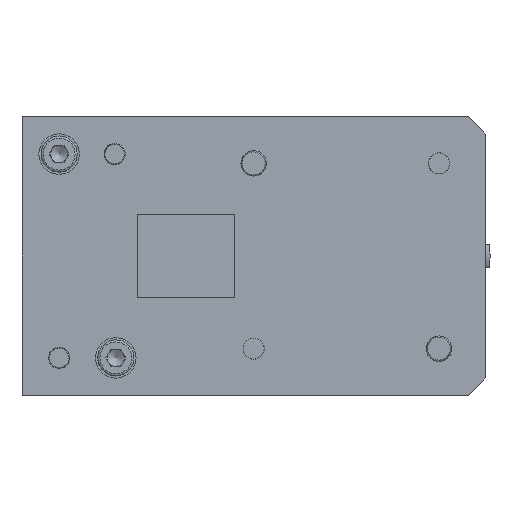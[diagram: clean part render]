
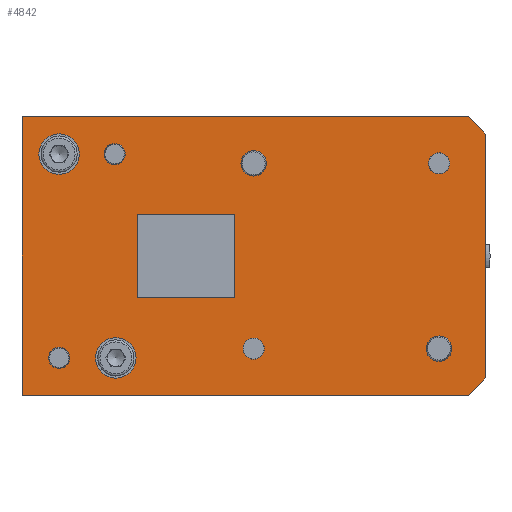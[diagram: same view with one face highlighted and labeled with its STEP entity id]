
A CAD part, front view. The second image highlights one B-rep face of the part: STEP entity #4842.
In plain terms, the highlighted planar face has unit normal (0, -1, 0).
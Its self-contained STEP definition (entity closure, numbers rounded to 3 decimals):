
#331=LINE('',#9128,#660);
#337=LINE('',#9141,#666);
#340=LINE('',#9147,#669);
#343=LINE('',#9154,#672);
#345=LINE('',#9174,#674);
#346=LINE('',#9177,#675);
#347=LINE('',#9179,#676);
#348=LINE('',#9181,#677);
#349=LINE('',#9182,#678);
#350=LINE('',#9183,#679);
#660=VECTOR('',#7779,1000.);
#666=VECTOR('',#7787,1000.);
#669=VECTOR('',#7792,1000.);
#672=VECTOR('',#7797,1000.);
#674=VECTOR('',#7817,1000.);
#675=VECTOR('',#7818,1000.);
#676=VECTOR('',#7819,1000.);
#677=VECTOR('',#7820,1000.);
#678=VECTOR('',#7821,1000.);
#679=VECTOR('',#7822,1000.);
#2060=ORIENTED_EDGE('',*,*,#2660,.T.);
#2061=ORIENTED_EDGE('',*,*,#2661,.F.);
#2062=ORIENTED_EDGE('',*,*,#2662,.F.);
#2063=ORIENTED_EDGE('',*,*,#2663,.T.);
#2064=ORIENTED_EDGE('',*,*,#2664,.T.);
#2065=ORIENTED_EDGE('',*,*,#2665,.T.);
#2066=ORIENTED_EDGE('',*,*,#2666,.T.);
#2067=ORIENTED_EDGE('',*,*,#2667,.T.);
#2068=ORIENTED_EDGE('',*,*,#2668,.T.);
#2069=ORIENTED_EDGE('',*,*,#2669,.T.);
#2070=ORIENTED_EDGE('',*,*,#2670,.T.);
#2071=ORIENTED_EDGE('',*,*,#2671,.T.);
#2072=ORIENTED_EDGE('',*,*,#2658,.F.);
#2073=ORIENTED_EDGE('',*,*,#2672,.T.);
#2074=ORIENTED_EDGE('',*,*,#2646,.F.);
#2075=ORIENTED_EDGE('',*,*,#2652,.F.);
#2076=ORIENTED_EDGE('',*,*,#2655,.F.);
#2077=ORIENTED_EDGE('',*,*,#2673,.T.);
#2646=EDGE_CURVE('',#3091,#3092,#331,.T.);
#2652=EDGE_CURVE('',#3096,#3091,#337,.T.);
#2655=EDGE_CURVE('',#3098,#3096,#340,.T.);
#2658=EDGE_CURVE('',#3101,#3102,#343,.T.);
#2660=EDGE_CURVE('',#3103,#3103,#3334,.T.);
#2661=EDGE_CURVE('',#3104,#3104,#3335,.T.);
#2662=EDGE_CURVE('',#3105,#3105,#3336,.T.);
#2663=EDGE_CURVE('',#3106,#3106,#3337,.T.);
#2664=EDGE_CURVE('',#3107,#3107,#3338,.T.);
#2665=EDGE_CURVE('',#3108,#3108,#3339,.T.);
#2666=EDGE_CURVE('',#3109,#3109,#3340,.T.);
#2667=EDGE_CURVE('',#3110,#3110,#3341,.T.);
#2668=EDGE_CURVE('',#3111,#3112,#345,.T.);
#2669=EDGE_CURVE('',#3112,#3113,#346,.T.);
#2670=EDGE_CURVE('',#3113,#3114,#347,.T.);
#2671=EDGE_CURVE('',#3114,#3111,#348,.T.);
#2672=EDGE_CURVE('',#3101,#3092,#349,.F.);
#2673=EDGE_CURVE('',#3098,#3102,#350,.F.);
#3091=VERTEX_POINT('',#9129);
#3092=VERTEX_POINT('',#9130);
#3096=VERTEX_POINT('',#9140);
#3098=VERTEX_POINT('',#9146);
#3101=VERTEX_POINT('',#9153);
#3102=VERTEX_POINT('',#9155);
#3103=VERTEX_POINT('',#9159);
#3104=VERTEX_POINT('',#9161);
#3105=VERTEX_POINT('',#9163);
#3106=VERTEX_POINT('',#9165);
#3107=VERTEX_POINT('',#9167);
#3108=VERTEX_POINT('',#9169);
#3109=VERTEX_POINT('',#9171);
#3110=VERTEX_POINT('',#9173);
#3111=VERTEX_POINT('',#9175);
#3112=VERTEX_POINT('',#9176);
#3113=VERTEX_POINT('',#9178);
#3114=VERTEX_POINT('',#9180);
#3334=CIRCLE('',#6359,2.5);
#3335=CIRCLE('',#6360,4.75);
#3336=CIRCLE('',#6361,4.75);
#3337=CIRCLE('',#6362,3.);
#3338=CIRCLE('',#6363,2.5);
#3339=CIRCLE('',#6364,2.5);
#3340=CIRCLE('',#6365,3.);
#3341=CIRCLE('',#6366,2.5);
#3813=EDGE_LOOP('',(#2060));
#3814=EDGE_LOOP('',(#2061));
#3815=EDGE_LOOP('',(#2062));
#3816=EDGE_LOOP('',(#2063));
#3817=EDGE_LOOP('',(#2064));
#3818=EDGE_LOOP('',(#2065));
#3819=EDGE_LOOP('',(#2066));
#3820=EDGE_LOOP('',(#2067));
#3821=EDGE_LOOP('',(#2068,#2069,#2070,#2071));
#3822=EDGE_LOOP('',(#2072,#2073,#2074,#2075,#2076,#2077));
#4338=FACE_BOUND('',#3813,.T.);
#4339=FACE_BOUND('',#3814,.T.);
#4340=FACE_BOUND('',#3815,.T.);
#4341=FACE_BOUND('',#3816,.T.);
#4342=FACE_BOUND('',#3817,.T.);
#4343=FACE_BOUND('',#3818,.T.);
#4344=FACE_BOUND('',#3819,.T.);
#4345=FACE_BOUND('',#3820,.T.);
#4346=FACE_BOUND('',#3821,.T.);
#4347=FACE_BOUND('',#3822,.T.);
#4548=PLANE('',#6358);
#4842=ADVANCED_FACE('',(#4338,#4339,#4340,#4341,#4342,#4343,#4344,#4345,
#4346,#4347),#4548,.F.);
#6358=AXIS2_PLACEMENT_3D('',#9157,#7799,#7800);
#6359=AXIS2_PLACEMENT_3D('',#9158,#7801,#7802);
#6360=AXIS2_PLACEMENT_3D('',#9160,#7803,#7804);
#6361=AXIS2_PLACEMENT_3D('',#9162,#7805,#7806);
#6362=AXIS2_PLACEMENT_3D('',#9164,#7807,#7808);
#6363=AXIS2_PLACEMENT_3D('',#9166,#7809,#7810);
#6364=AXIS2_PLACEMENT_3D('',#9168,#7811,#7812);
#6365=AXIS2_PLACEMENT_3D('',#9170,#7813,#7814);
#6366=AXIS2_PLACEMENT_3D('',#9172,#7815,#7816);
#7779=DIRECTION('',(1.,0.,0.));
#7787=DIRECTION('',(0.,0.,1.));
#7792=DIRECTION('',(-1.,0.,0.));
#7797=DIRECTION('',(0.,0.,-1.));
#7799=DIRECTION('',(0.,1.,0.));
#7800=DIRECTION('',(0.,0.,1.));
#7801=DIRECTION('',(0.,1.,0.));
#7802=DIRECTION('',(0.,0.,1.));
#7803=DIRECTION('',(0.,-1.,0.));
#7804=DIRECTION('',(0.,0.,-1.));
#7805=DIRECTION('',(0.,-1.,0.));
#7806=DIRECTION('',(0.,0.,-1.));
#7807=DIRECTION('',(0.,1.,0.));
#7808=DIRECTION('',(0.,0.,1.));
#7809=DIRECTION('',(0.,1.,0.));
#7810=DIRECTION('',(0.,0.,1.));
#7811=DIRECTION('',(0.,1.,0.));
#7812=DIRECTION('',(0.,0.,1.));
#7813=DIRECTION('',(0.,1.,0.));
#7814=DIRECTION('',(0.,0.,1.));
#7815=DIRECTION('',(0.,1.,0.));
#7816=DIRECTION('',(0.,0.,1.));
#7817=DIRECTION('',(0.,0.,1.));
#7818=DIRECTION('',(1.,0.,0.));
#7819=DIRECTION('',(0.,0.,-1.));
#7820=DIRECTION('',(-1.,0.,0.));
#7821=DIRECTION('',(0.707,0.,-0.707));
#7822=DIRECTION('',(-0.707,0.,-0.707));
#9128=CARTESIAN_POINT('',(109.,-13.08,32.7));
#9129=CARTESIAN_POINT('',(0.,-13.08,32.7));
#9130=CARTESIAN_POINT('',(105.,-13.08,32.7));
#9140=CARTESIAN_POINT('',(0.,-13.08,-32.7));
#9141=CARTESIAN_POINT('',(0.,-13.08,-32.7));
#9146=CARTESIAN_POINT('',(105.,-13.08,-32.7));
#9147=CARTESIAN_POINT('',(0.,-13.08,-32.7));
#9153=CARTESIAN_POINT('',(109.,-13.08,28.7));
#9154=CARTESIAN_POINT('',(109.,-13.08,-32.7));
#9155=CARTESIAN_POINT('',(109.,-13.08,-28.7));
#9157=CARTESIAN_POINT('',(0.,-13.08,32.7));
#9158=CARTESIAN_POINT('',(54.5,-13.08,-21.8));
#9159=CARTESIAN_POINT('',(54.5,-13.08,-19.3));
#9160=CARTESIAN_POINT('',(8.72,-13.08,23.98));
#9161=CARTESIAN_POINT('',(8.72,-13.08,19.23));
#9162=CARTESIAN_POINT('',(22.073,-13.08,-23.98));
#9163=CARTESIAN_POINT('',(22.073,-13.08,-28.73));
#9164=CARTESIAN_POINT('',(98.1,-13.08,-21.8));
#9165=CARTESIAN_POINT('',(98.1,-13.08,-18.8));
#9166=CARTESIAN_POINT('',(8.72,-13.08,-23.98));
#9167=CARTESIAN_POINT('',(8.72,-13.08,-21.48));
#9168=CARTESIAN_POINT('',(21.8,-13.08,23.98));
#9169=CARTESIAN_POINT('',(21.8,-13.08,26.48));
#9170=CARTESIAN_POINT('',(54.5,-13.08,21.8));
#9171=CARTESIAN_POINT('',(54.5,-13.08,24.8));
#9172=CARTESIAN_POINT('',(98.1,-13.08,21.8));
#9173=CARTESIAN_POINT('',(98.1,-13.08,24.3));
#9174=CARTESIAN_POINT('',(27.25,-13.08,-9.81));
#9175=CARTESIAN_POINT('',(27.25,-13.08,-9.81));
#9176=CARTESIAN_POINT('',(27.25,-13.08,9.81));
#9177=CARTESIAN_POINT('',(50.031,-13.08,9.81));
#9178=CARTESIAN_POINT('',(50.031,-13.08,9.81));
#9179=CARTESIAN_POINT('',(50.031,-13.08,-9.81));
#9180=CARTESIAN_POINT('',(50.031,-13.08,-9.81));
#9181=CARTESIAN_POINT('',(27.25,-13.08,-9.81));
#9182=CARTESIAN_POINT('',(105.,-13.08,32.7));
#9183=CARTESIAN_POINT('',(109.,-13.08,-28.7));
